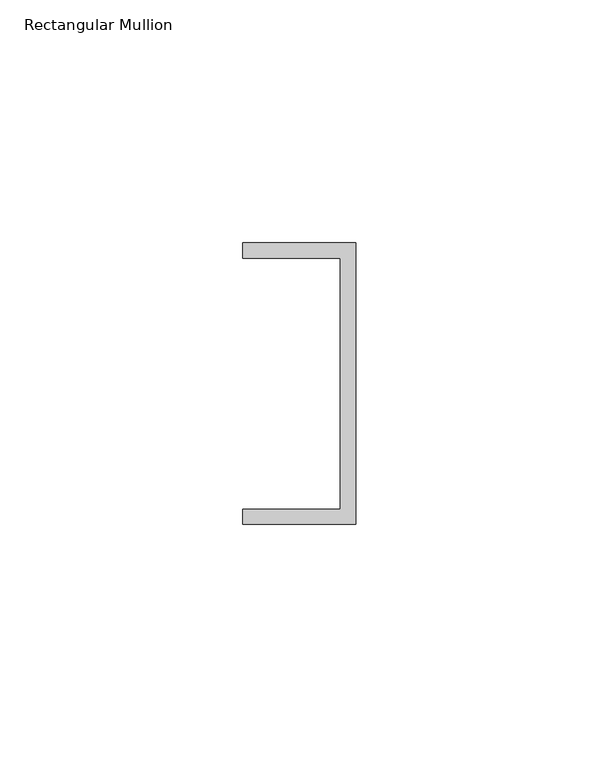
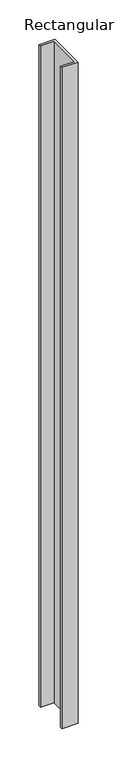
"""IFC4 building model written with IfcOpenShell, lengths in millimetres: member geometry, Rectangular Mullion : Frame-Teknion-Altos-Base_Channel."""

from ifc_helpers import new_model, si_unit, frame, origin, place, context, project, spatial, polyline, outline, extrude, source, transform, mapped, element, save


def rectangular_mullion_d1c44660(model_context):
    return source(origin(), model_context, "Body", "SweptSolid", [
        extrude(outline(polyline([(0.0, 29.0214844), (0.0, -29.0214844), (-23.3164063, -29.0214844), (-23.3164063, -25.8464844), (-3.175, -25.8464844), (-3.175, 25.8464844), (-23.3164063, 25.8464844), (-23.3164063, 29.0214844), (0.0, 29.0214844)])), frame((0.0, 0.0, -1026.1203125), z_axis=(0.0, 0.0, 1.0), x_axis=(1.0, 0.0, 0.0)), (0.0, 0.0, 1.0), 1026.1203125),
    ])


if __name__ == "__main__":
    model = new_model("IFC4")
    model_context = context("Model", 3, world=origin())
    ifc_project = project(units=[si_unit("LENGTHUNIT", "METRE", prefix="MILLI")], contexts=[model_context])
    site = spatial("IfcSite", under=ifc_project)
    building = spatial("IfcBuilding", under=site)
    placement = place(None, origin())
    rectangular_mullion_shape = rectangular_mullion_d1c44660(model_context)
    element("IfcMember", 1, ObjectType="Rectangular Mullion : Frame-Teknion-Altos-Base_Channel", at=placement, inside=building, context=model_context, shape_type="MappedRepresentation", body=[
        mapped(rectangular_mullion_shape, transform((0.0, 0.0, 0.0), x_axis=(1.0, 0.0, 0.0), y_axis=(0.0, 1.0, 0.0), z_axis=(0.0, 0.0, 1.0))),
    ])
    save(model, "model.ifc")
